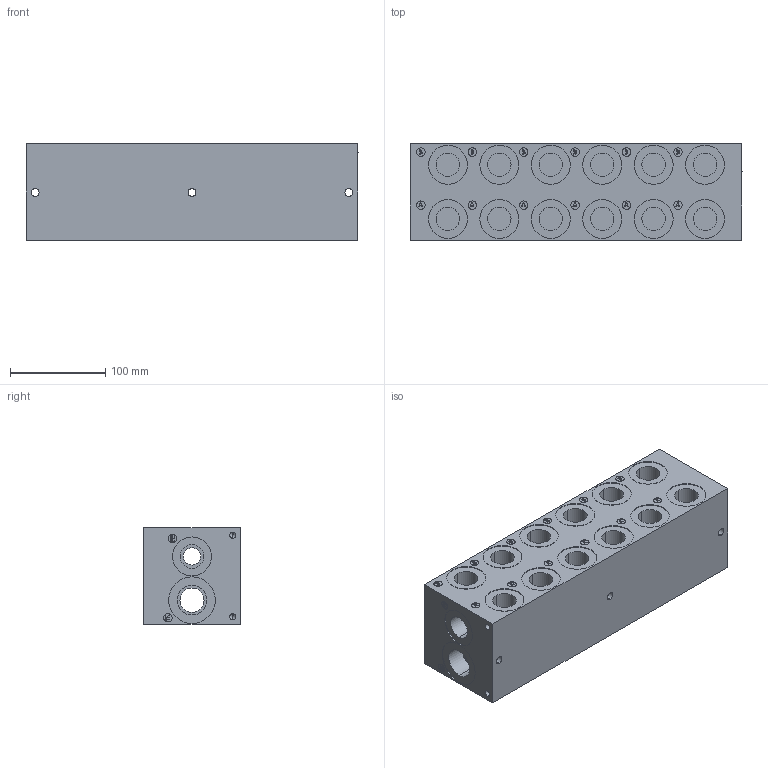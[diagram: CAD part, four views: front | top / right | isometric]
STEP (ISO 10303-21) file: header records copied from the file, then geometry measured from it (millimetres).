
FILE_DESCRIPTION (( 'STEP AP203' ), '1' );
FILE_NAME ('BMR-AHP03S2-06-1_Z.STEP', '2015-01-06T15:23:38', ( '' ), ( '' ), 'SwSTEP 2.0', 'SolidWorks 2014', '' );
FILE_SCHEMA (( 'CONFIG_CONTROL_DESIGN' ));
Length unit declared in the file: inch
Products named in the file (1): BMR-AHP03S2-06-1_Z
Bounding box: 349.25 x 101.6 x 101.6 mm (x, y, z)
Volume: 3160908.7 mm3; surface area: 247247.6 mm2
Topology: 1 solids, 1 shells, 783 faces, 1876 edges, 1154 vertices
Faces by surface type: plane 317, cylinder 276, cone 116, bspline 74
Entity records: 26113 total; most frequent: CARTESIAN_POINT 8428, DIRECTION 3584, ORIENTED_EDGE 3520, EDGE_CURVE 1760, AXIS2_PLACEMENT_3D 1262, VERTEX_POINT 1154, LINE 1060, VECTOR 1060
